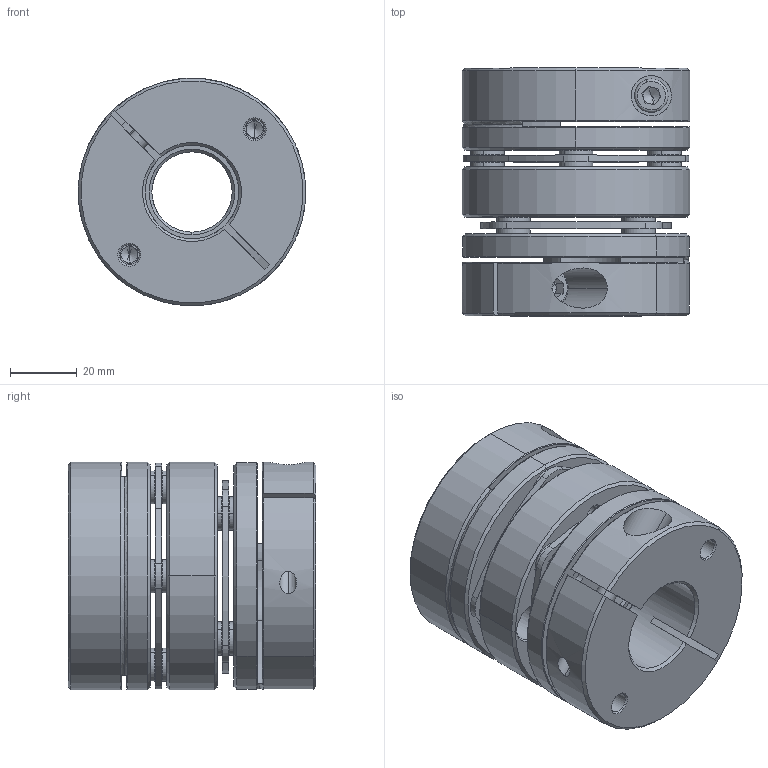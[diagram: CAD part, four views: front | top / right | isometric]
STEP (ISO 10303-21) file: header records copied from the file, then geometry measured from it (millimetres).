
FILE_DESCRIPTION (( 'STEP AP203' ), '1' );
FILE_NAME ('LD2-D68-24-28.STEP', '2021-10-26T08:42:13', ( '' ), ( '' ), 'SwSTEP 2.0', 'SolidWorks 2018', '' );
FILE_SCHEMA (( 'CONFIG_CONTROL_DESIGN' ));
Length unit declared in the file: millimetre
Products named in the file (2): 錨璃102^LD2-D68; LD2-D68-24-28
Assembly tree (1 placements, depth 2):
  LD2-D68-24-28
    錨璃102^LD2-D68
Bounding box: 68 x 74 x 68 mm (x, y, z)
Volume: 179746.6 mm3; surface area: 63742.3 mm2
Topology: 1 solids, 27 shells, 732 faces, 1696 edges, 1032 vertices
Faces by surface type: cylinder 256, cone 226, plane 220, torus 30
Entity records: 21398 total; most frequent: DIRECTION 3974, CARTESIAN_POINT 3912, ORIENTED_EDGE 3344, EDGE_CURVE 1672, AXIS2_PLACEMENT_3D 1614, VERTEX_POINT 1032, CIRCLE 878, EDGE_LOOP 868
